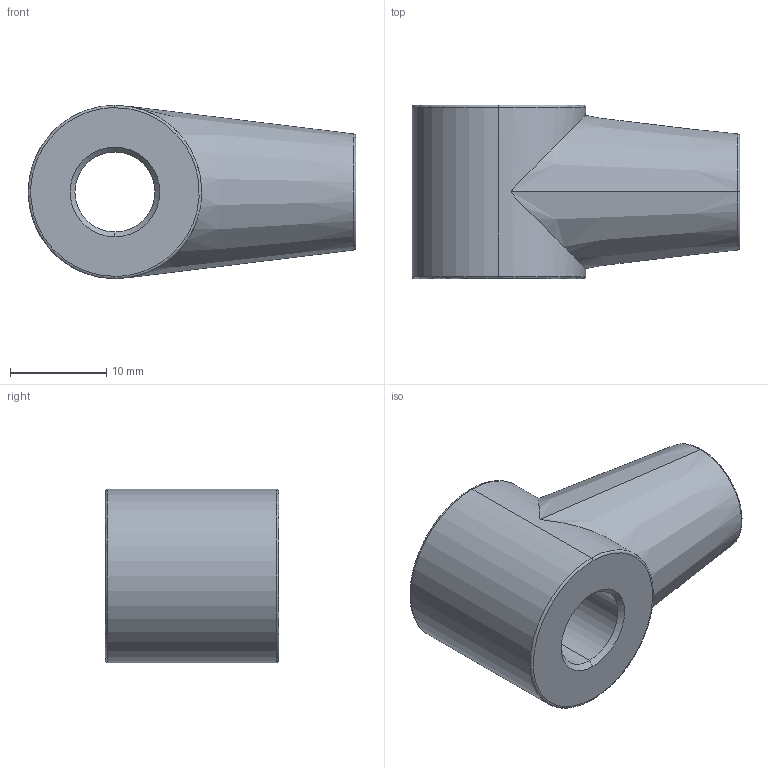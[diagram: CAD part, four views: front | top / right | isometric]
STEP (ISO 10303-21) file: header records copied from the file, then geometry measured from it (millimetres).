
FILE_DESCRIPTION (( 'STEP AP214' ), '1' );
FILE_NAME ('18.08A1HAMER8.3.STEP', '2017-11-09T12:00:05', ( '' ), ( '' ), 'SwSTEP 2.0', 'SolidWorks 2016', '' );
FILE_SCHEMA (( 'AUTOMOTIVE_DESIGN' ));
Length unit declared in the file: millimetre
Products named in the file (1): 18.08A1HAMER8.3
Bounding box: 34 x 18 x 18 mm (x, y, z)
Volume: 5813.3 mm3; surface area: 2824.6 mm2
Topology: 1 solids, 1 shells, 25 faces, 52 edges, 29 vertices
Faces by surface type: cone 10, bspline 6, cylinder 6, plane 3
Entity records: 872 total; most frequent: CARTESIAN_POINT 339, DIRECTION 108, ORIENTED_EDGE 100, EDGE_CURVE 50, AXIS2_PLACEMENT_3D 46, VERTEX_POINT 29, EDGE_LOOP 29, CIRCLE 26
